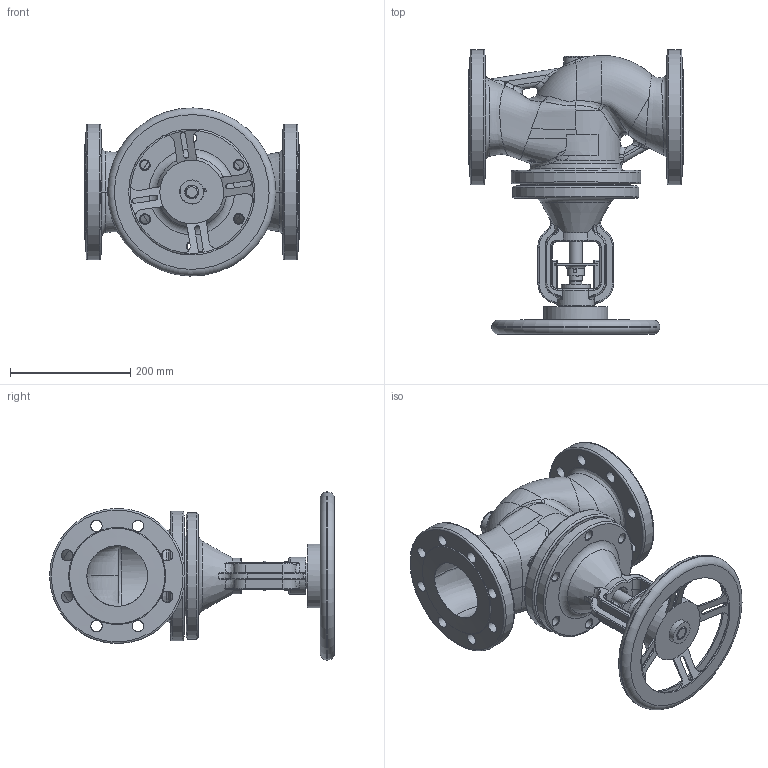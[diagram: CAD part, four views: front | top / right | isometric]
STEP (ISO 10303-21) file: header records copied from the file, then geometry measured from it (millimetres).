
FILE_DESCRIPTION(/* description */ ('STEP AP203'),/* implementation_level */ '2;1');
FILE_NAME(/* name */ '',/* time_stamp */ '2025-02-21T11:52:20+07:00',/* author */ ('Eva'),/* organization */ (''),/* preprocessor_version */ 'ST-DEVELOPER v20',/* originating_system */ 'Autodesk Inventor 2025',/* authorisation */ '');
FILE_SCHEMA (('AUTOMOTIVE_DESIGN { 1 0 10303 214 3 1 1 }'));
Products named in the file (7): 波纹管-100; 100; 波纹管截止阀盖100; 波纹管100阀杆螺母; 波纹管100限位板; 波纹管阀杆100; 100手轮
Assembly tree (6 placements, depth 2):
  波纹管-100
    100
    波纹管截止阀盖100
    波纹管100阀杆螺母
    波纹管100限位板
    波纹管阀杆100
    100手轮
Bounding box: 357.01 x 473.38 x 279.51 mm (x, y, z)
Volume: 5672410.7 mm3; surface area: 886108.6 mm2
Topology: 6 solids, 6 shells, 541 faces, 1545 edges, 991 vertices
Faces by surface type: bspline 183, cylinder 159, plane 102, torus 50, cone 42, sphere 5
Full cylindrical faces by diameter (mm): 6 x4, 8 x1, 16 x12, 19 x16, 19.5 x1, 20 x1, 22 x3, 23 x2, 29 x1, 34 x1, 36 x1, 39 x1, 40 x1, 42 x2, 48 x1, 50 x1, 89.7 x1, 100.8 x3, 106.018 x1, 107.4 x1, 110 x1, 126 x1, 134.5 x1, 210 x1, 215.7 x1, 224.8 x2, 224.932 x1, 273.973 x1, 279.573 x1
Entity records: 203703 total; most frequent: CARTESIAN_POINT 190918, ORIENTED_EDGE 3074, DIRECTION 2067, EDGE_CURVE 1537, VERTEX_POINT 991, AXIS2_PLACEMENT_3D 865, B_SPLINE_CURVE_WITH_KNOTS 662, EDGE_LOOP 626
